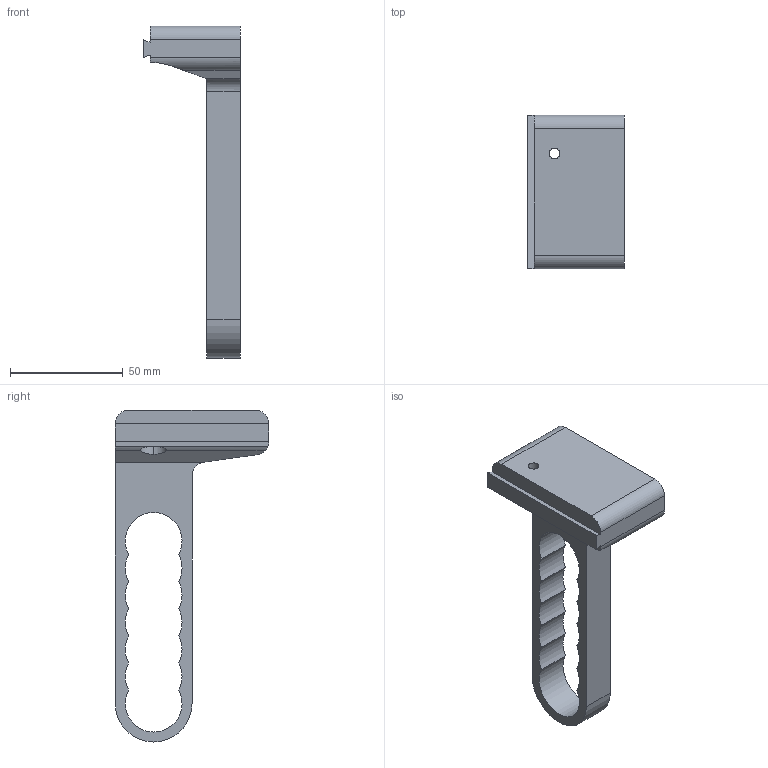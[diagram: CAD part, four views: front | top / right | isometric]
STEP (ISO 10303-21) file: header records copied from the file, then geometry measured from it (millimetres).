
FILE_DESCRIPTION((''),'2;1');
FILE_NAME('VERTIKAL_WANDHALDER_LINKS','2024-12-04T18:42:00',('rschm'),(''),'CREO PARAMETRIC BY PTC INC, 2023073','CREO PARAMETRIC BY PTC INC, 2023073','');
FILE_SCHEMA(('CONFIG_CONTROL_DESIGN'));
Length unit declared in the file: millimetre
Products named in the file (1): VERTIKAL_WANDHALDER_LINKS
Bounding box: 42.9 x 68 x 147 mm (x, y, z)
Volume: 81884.8 mm3; surface area: 20998.8 mm2
Topology: 1 solids, 1 shells, 39 faces, 109 edges, 72 vertices
Faces by surface type: cylinder 23, plane 14, cone 2
Entity records: 1352 total; most frequent: CARTESIAN_POINT 271, DIRECTION 223, ORIENTED_EDGE 218, EDGE_CURVE 109, AXIS2_PLACEMENT_3D 83, VERTEX_POINT 72, VECTOR 57, LINE 57
